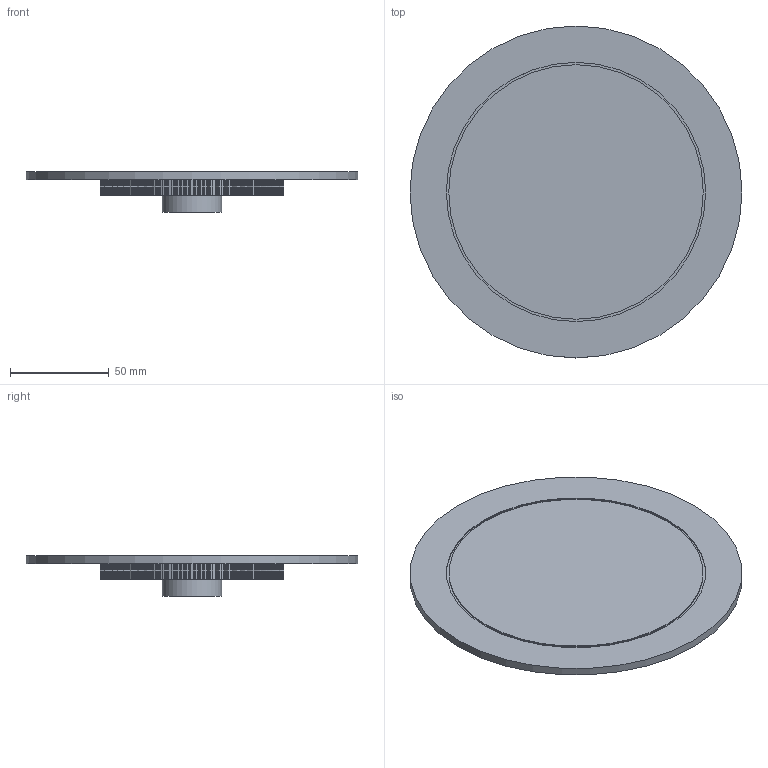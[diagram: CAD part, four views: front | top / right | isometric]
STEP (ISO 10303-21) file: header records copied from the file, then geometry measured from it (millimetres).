
FILE_DESCRIPTION(('Open CASCADE Model'),'2;1');
FILE_NAME('Open CASCADE Shape Model','2026-10-20T12:04:07',('Author'),( 'Open CASCADE'),'Open CASCADE STEP processor 8.0','build123d', 'Unknown');
FILE_SCHEMA(('AUTOMOTIVE_DESIGN { 1 0 10303 214 1 1 1 1 }'));
Products named in the file (1): COMPOUND
Bounding box: 168 x 168 x 20.5 mm (x, y, z)
Volume: 108035.1 mm3; surface area: 56092.4 mm2
Topology: 1 solids, 1 shells, 1336 faces, 3981 edges, 2654 vertices
Faces by surface type: plane 1329, cylinder 7
Full cylindrical faces by diameter (mm): 19.5 x1, 22.15 x1, 30 x1, 76 x1, 128.8 x1, 131.2 x1, 168 x1
Entity records: 95662 total; most frequent: CARTESIAN_POINT 15934, DIRECTION 14631, LINE 11915, VECTOR 11915, ORIENTED_EDGE 7962, PCURVE 7962, DEFINITIONAL_REPRESENTATION 7962, EDGE_CURVE 3981
